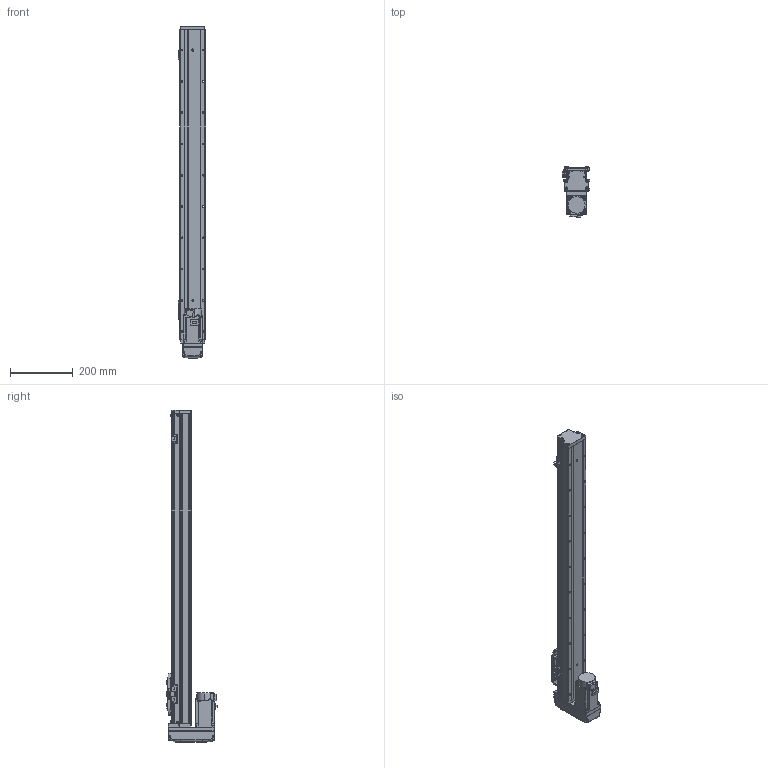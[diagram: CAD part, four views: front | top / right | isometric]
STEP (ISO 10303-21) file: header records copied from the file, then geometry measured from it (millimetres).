
FILE_DESCRIPTION (( 'STEP AP203' ), '1' );
FILE_NAME ('GTH8-800-BM-M20-C4.step', '2022-09-23T01:06:35', ( '微软用户' ), ( '微软中国' ), 'SwSTEP 2.0', 'SolidWorks 2020', '' );
FILE_SCHEMA (( 'CONFIG_CONTROL_DESIGN' ));
Length unit declared in the file: millimetre
Products named in the file (18): GTH80-013; GTH50-023; GBT 70.3-M3℅6; GBT96.1-2002 3×0.8; GTH80-022; BTH-M3X5X6; GBT 70.1-M3℅6; hg-kn43j_-s100_; GTH80-003; GBT 70.1-M4×16; CTHA86-015-1_CTHA86-015-2; GTH80-004; GTH80-001_800; GTH80-028; CTHA86-033_M40B; GTH80-006; GTH50-024; GTH8-800-BM-M20-C4
Assembly tree (57 placements, depth 2):
  GTH8-800-BM-M20-C4
    GTH80-001_800
    GTH80-003
    GTH80-004
    GTH80-006
    GTH80-013
    GBT 70.3-M3℅6  x4
    GTH80-022
    GBT 70.1-M3℅6  x14
    GBT 70.1-M4×16  x8
    GTH80-028  x2
    GTH50-024  x3
    GTH50-023  x3
    GBT96.1-2002 3×0.8  x6
    BTH-M3X5X6  x8
    hg-kn43j_-s100_
    CTHA86-015-1_CTHA86-015-2
    CTHA86-033_M40B
Bounding box: 86.9 x 160.3 x 1061 mm (x, y, z)
Volume: 5275489.9 mm3; surface area: 530132.4 mm2
Topology: 59 solids, 59 shells, 2248 faces, 5199 edges, 3187 vertices
Faces by surface type: plane 1187, cylinder 619, cone 260, torus 166, bspline 8, sphere 8
Entity records: 41218 total; most frequent: CARTESIAN_POINT 7241, DIRECTION 6705, ORIENTED_EDGE 6216, EDGE_CURVE 3108, AXIS2_PLACEMENT_3D 2349, VECTOR 2007, LINE 2007, VERTEX_POINT 1962
